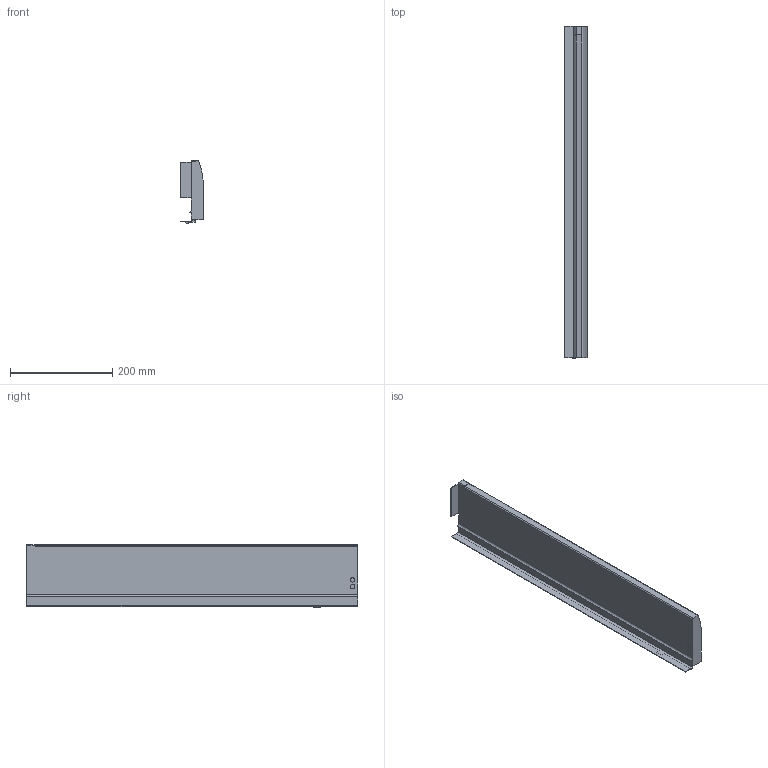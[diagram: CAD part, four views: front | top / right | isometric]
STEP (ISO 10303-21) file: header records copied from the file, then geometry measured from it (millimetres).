
FILE_DESCRIPTION (( 'STEP AP214' ), '1' );
FILE_NAME ('_IMOS_NOVA-Pro_Dekor-H122_DL_NL650_RE.step', '2010-07-14T11:02:10', ( 'grass' ), ( '' ), 'SwSTEP 2.0', 'SolidWorks 2010', '' );
FILE_SCHEMA (( 'AUTOMOTIVE_DESIGN' ));
Length unit declared in the file: millimetre
Products named in the file (1): _IMOS_NOVA-Pro_Dekor-H122_DL_NL650_RE
Bounding box: 44.3 x 648.45 x 122.49 mm (x, y, z)
Volume: 1191257.8 mm3; surface area: 264016.8 mm2
Topology: 1 solids, 1 shells, 72 faces, 201 edges, 134 vertices
Faces by surface type: plane 49, cylinder 22, bspline 1
Entity records: 2349 total; most frequent: CARTESIAN_POINT 421, ORIENTED_EDGE 402, DIRECTION 390, EDGE_CURVE 201, VECTOR 152, LINE 152, VERTEX_POINT 134, AXIS2_PLACEMENT_3D 119
